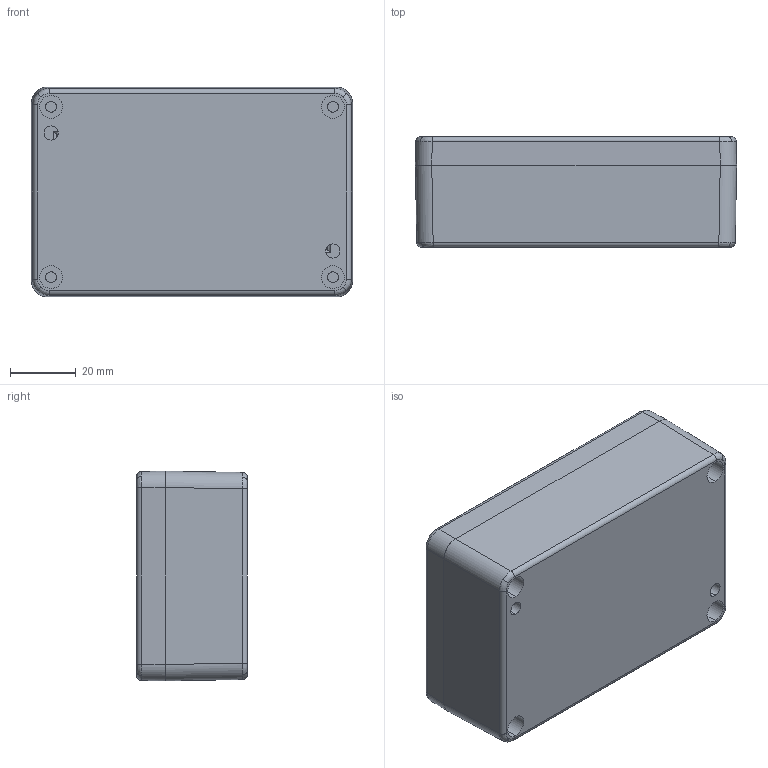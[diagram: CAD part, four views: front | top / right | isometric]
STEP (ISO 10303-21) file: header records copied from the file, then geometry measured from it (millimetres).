
FILE_DESCRIPTION (( 'STEP AP214' ), '1' );
FILE_NAME ('Zag 3 Assembly.STEP', '2016-05-03T07:38:57', ( '' ), ( '' ), 'SwSTEP 2.0', 'SolidWorks 2015', '' );
FILE_SCHEMA (( 'AUTOMOTIVE_DESIGN' ));
Length unit declared in the file: millimetre
Products named in the file (4): Zag 3 Assembly; Zag 3 Body; Zag 3 Lid; pan cross head_am_B18.6.7M - M4 x 0.7 x 16 Type I Cross Recessed PHMS --16C
Assembly tree (6 placements, depth 2):
  Zag 3 Assembly
    pan cross head_am_B18.6.7M - M4 x 0.7 x 16 Type I Cross Recessed PHMS --16C  x4
    Zag 3 Lid
    Zag 3 Body
Bounding box: 98 x 33.75 x 64 mm (x, y, z)
Volume: 90262 mm3; surface area: 48081.7 mm2
Topology: 6 solids, 6 shells, 371 faces, 902 edges, 556 vertices
Faces by surface type: plane 133, cylinder 106, cone 67, torus 31, bspline 22, sphere 12
Entity records: 9665 total; most frequent: CARTESIAN_POINT 2156, DIRECTION 1601, ORIENTED_EDGE 1488, EDGE_CURVE 744, AXIS2_PLACEMENT_3D 635, VERTEX_POINT 466, CIRCLE 346, EDGE_LOOP 340
